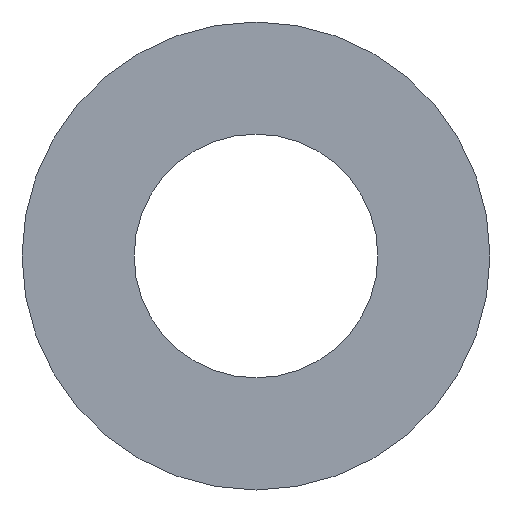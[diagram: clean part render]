
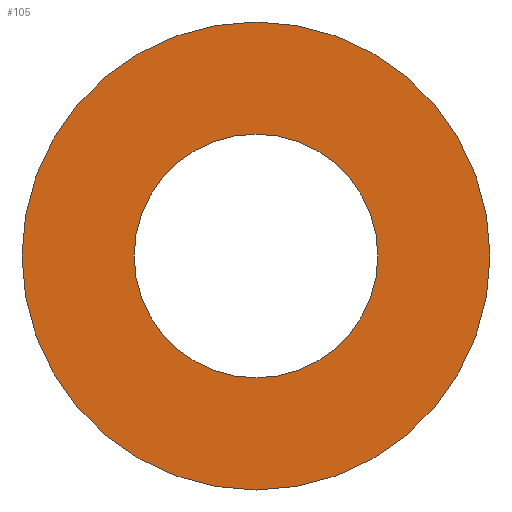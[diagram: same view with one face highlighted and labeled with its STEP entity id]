
A CAD part, front view. The second image highlights one B-rep face of the part: STEP entity #105.
In plain terms, the highlighted planar face has unit normal (0, -1, 0).
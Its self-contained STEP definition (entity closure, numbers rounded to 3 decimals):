
#22 = VERTEX_POINT('',#23);
#23 = CARTESIAN_POINT('',(88.05,0.4,-212.));
#32 = CYLINDRICAL_SURFACE('',#33,4.8);
#33 = AXIS2_PLACEMENT_3D('',#34,#35,#36);
#34 = CARTESIAN_POINT('',(83.25,0.4,-212.));
#35 = DIRECTION('',(0.,-1.,-0.));
#36 = DIRECTION('',(1.,0.,0.));
#79 = EDGE_CURVE('',#22,#22,#80,.T.);
#80 = SURFACE_CURVE('',#81,(#86,#93),.PCURVE_S1.);
#81 = CIRCLE('',#82,4.8);
#82 = AXIS2_PLACEMENT_3D('',#83,#84,#85);
#83 = CARTESIAN_POINT('',(83.25,0.4,-212.));
#84 = DIRECTION('',(-0.,1.,0.));
#85 = DIRECTION('',(1.,0.,0.));
#86 = PCURVE('',#32,#87);
#87 = DEFINITIONAL_REPRESENTATION('',(#88),#92);
#88 = LINE('',#89,#90);
#89 = CARTESIAN_POINT('',(-0.,0.));
#90 = VECTOR('',#91,1.);
#91 = DIRECTION('',(-1.,0.));
#92 = ( GEOMETRIC_REPRESENTATION_CONTEXT(2) 
PARAMETRIC_REPRESENTATION_CONTEXT() REPRESENTATION_CONTEXT('2D SPACE',''
  ) );
#93 = PCURVE('',#94,#99);
#94 = PLANE('',#95);
#95 = AXIS2_PLACEMENT_3D('',#96,#97,#98);
#96 = CARTESIAN_POINT('',(83.25,0.4,-212.));
#97 = DIRECTION('',(0.,1.,0.));
#98 = DIRECTION('',(0.,-0.,1.));
#99 = DEFINITIONAL_REPRESENTATION('',(#100),#104);
#100 = CIRCLE('',#101,4.8);
#101 = AXIS2_PLACEMENT_2D('',#102,#103);
#102 = CARTESIAN_POINT('',(0.,0.));
#103 = DIRECTION('',(0.,1.));
#104 = ( GEOMETRIC_REPRESENTATION_CONTEXT(2) 
PARAMETRIC_REPRESENTATION_CONTEXT() REPRESENTATION_CONTEXT('2D SPACE',''
  ) );
#105 = ADVANCED_FACE('',(#106,#109),#94,.F.);
#106 = FACE_BOUND('',#107,.F.);
#107 = EDGE_LOOP('',(#108));
#108 = ORIENTED_EDGE('',*,*,#79,.T.);
#109 = FACE_BOUND('',#110,.F.);
#110 = EDGE_LOOP('',(#111));
#111 = ORIENTED_EDGE('',*,*,#112,.T.);
#112 = EDGE_CURVE('',#113,#113,#115,.T.);
#113 = VERTEX_POINT('',#114);
#114 = CARTESIAN_POINT('',(85.75,0.4,-212.));
#115 = SURFACE_CURVE('',#116,(#121,#132),.PCURVE_S1.);
#116 = CIRCLE('',#117,2.5);
#117 = AXIS2_PLACEMENT_3D('',#118,#119,#120);
#118 = CARTESIAN_POINT('',(83.25,0.4,-212.));
#119 = DIRECTION('',(0.,-1.,-0.));
#120 = DIRECTION('',(1.,0.,0.));
#121 = PCURVE('',#94,#122);
#122 = DEFINITIONAL_REPRESENTATION('',(#123),#131);
#123 = ( BOUNDED_CURVE() B_SPLINE_CURVE(2,(#124,#125,#126,#127,#128,#129
,#130),.UNSPECIFIED.,.T.,.F.) B_SPLINE_CURVE_WITH_KNOTS((1,2,2,2,2,1),(
    -2.094,0.,2.094,4.189,6.283,
8.378),.UNSPECIFIED.) CURVE() GEOMETRIC_REPRESENTATION_ITEM() 
RATIONAL_B_SPLINE_CURVE((1.,0.5,1.,0.5,1.,0.5,1.)) REPRESENTATION_ITEM(
  '') );
#124 = CARTESIAN_POINT('',(0.,2.5));
#125 = CARTESIAN_POINT('',(4.33,2.5));
#126 = CARTESIAN_POINT('',(2.165,-1.25));
#127 = CARTESIAN_POINT('',(0.,-5.));
#128 = CARTESIAN_POINT('',(-2.165,-1.25));
#129 = CARTESIAN_POINT('',(-4.33,2.5));
#130 = CARTESIAN_POINT('',(0.,2.5));
#131 = ( GEOMETRIC_REPRESENTATION_CONTEXT(2) 
PARAMETRIC_REPRESENTATION_CONTEXT() REPRESENTATION_CONTEXT('2D SPACE',''
  ) );
#132 = PCURVE('',#133,#138);
#133 = CYLINDRICAL_SURFACE('',#134,2.5);
#134 = AXIS2_PLACEMENT_3D('',#135,#136,#137);
#135 = CARTESIAN_POINT('',(83.25,-0.3,-212.));
#136 = DIRECTION('',(0.,-1.,-0.));
#137 = DIRECTION('',(1.,0.,0.));
#138 = DEFINITIONAL_REPRESENTATION('',(#139),#143);
#139 = LINE('',#140,#141);
#140 = CARTESIAN_POINT('',(-6.283,-0.7));
#141 = VECTOR('',#142,1.);
#142 = DIRECTION('',(1.,-0.));
#143 = ( GEOMETRIC_REPRESENTATION_CONTEXT(2) 
PARAMETRIC_REPRESENTATION_CONTEXT() REPRESENTATION_CONTEXT('2D SPACE',''
  ) );
